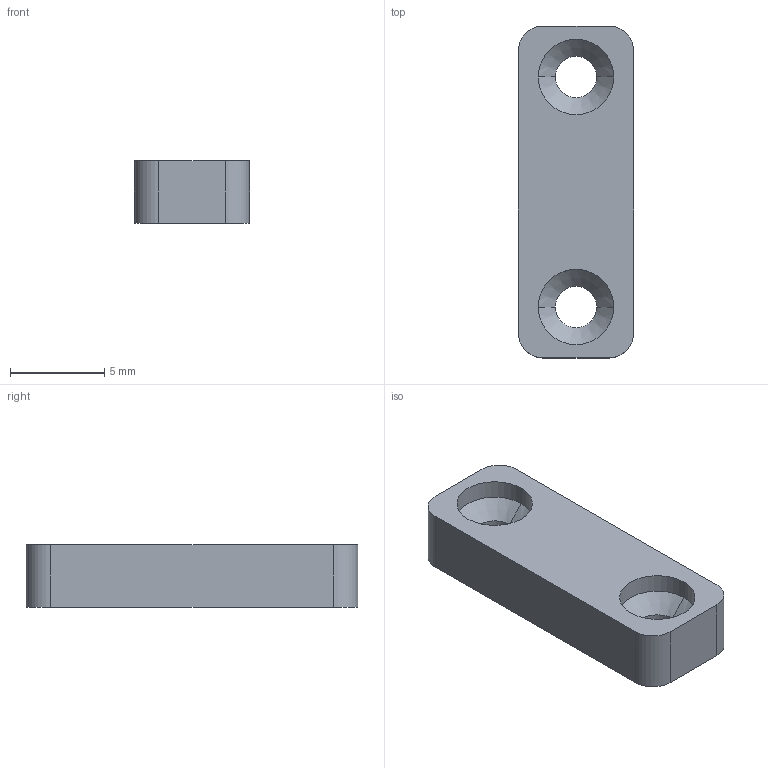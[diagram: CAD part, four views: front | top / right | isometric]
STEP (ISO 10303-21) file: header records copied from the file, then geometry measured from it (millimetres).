
FILE_DESCRIPTION (( 'STEP AP214' ), '1' );
FILE_NAME ('垫块9.STEP', '2026-09-29T10:41:15', ( '微软用户' ), ( '微软中国' ), 'SwSTEP 2.0', 'SolidWorks 2016', '' );
FILE_SCHEMA (( 'AUTOMOTIVE_DESIGN' ));
Length unit declared in the file: millimetre
Products named in the file (1): 菜輸9
Bounding box: 6.1 x 17.6 x 3.3 mm (x, y, z)
Volume: 295.8 mm3; surface area: 413.1 mm2
Topology: 1 solids, 1 shells, 28 faces, 64 edges, 40 vertices
Faces by surface type: cylinder 16, plane 8, cone 4
Entity records: 838 total; most frequent: DIRECTION 154, CARTESIAN_POINT 133, ORIENTED_EDGE 128, EDGE_CURVE 64, AXIS2_PLACEMENT_3D 61, VERTEX_POINT 40, EDGE_LOOP 34, VECTOR 32
